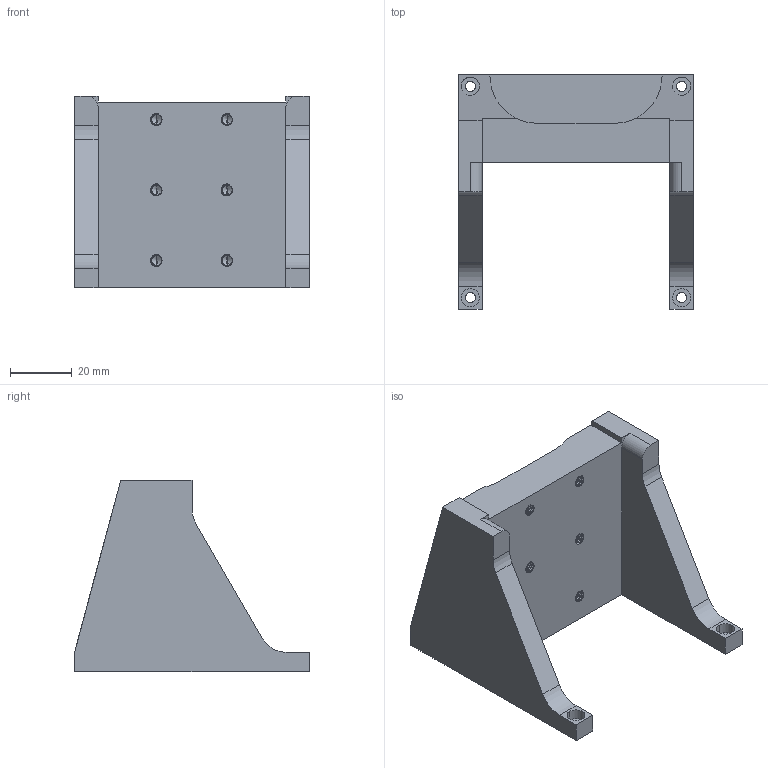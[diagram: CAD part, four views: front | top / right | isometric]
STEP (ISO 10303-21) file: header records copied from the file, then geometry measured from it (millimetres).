
FILE_DESCRIPTION((''),'2;1');
FILE_NAME('LM95-A2','2024-03-05T17:48:58',('R&D'),(''),'CREO PARAMETRIC BY PTC INC, 2021063','CREO PARAMETRIC BY PTC INC, 2021063','');
FILE_SCHEMA(('CONFIG_CONTROL_DESIGN'));
Length unit declared in the file: millimetre
Products named in the file (1): LM95-A2
Bounding box: 76.2 x 76.2 x 62.23 mm (x, y, z)
Volume: 99892.1 mm3; surface area: 24903.3 mm2
Topology: 1 solids, 1 shells, 300 faces, 838 edges, 540 vertices
Faces by surface type: cylinder 196, bspline 54, plane 38, cone 12
Entity records: 21359 total; most frequent: CARTESIAN_POINT 14585, ORIENTED_EDGE 1652, DIRECTION 986, EDGE_CURVE 826, VERTEX_POINT 540, B_SPLINE_CURVE_WITH_KNOTS 414, VECTOR 330, LINE 330
